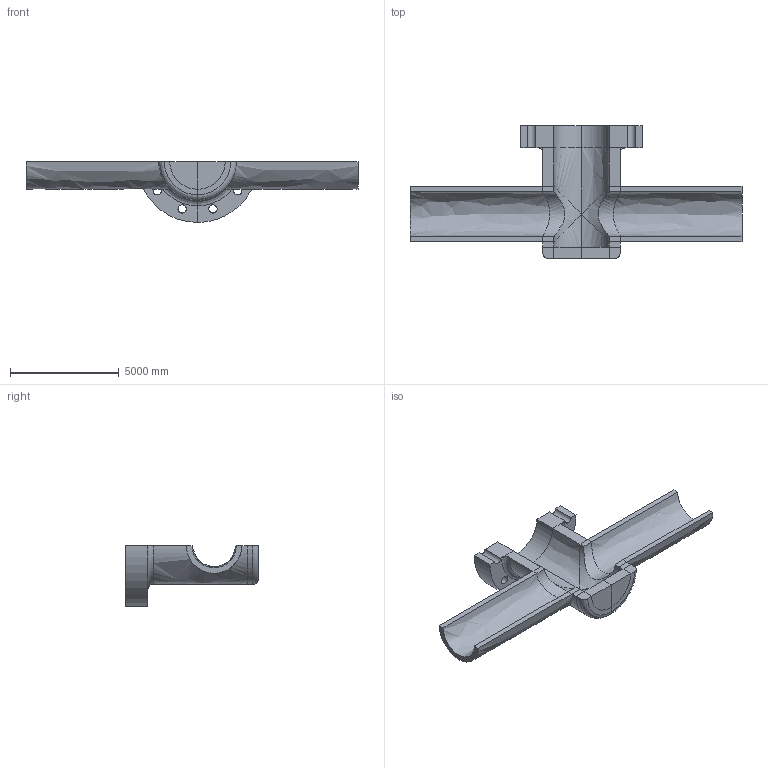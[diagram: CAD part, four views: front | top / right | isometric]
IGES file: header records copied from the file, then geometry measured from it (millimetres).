
Start section: the Structure Analysis of Valve /COM,ANSYS RELEASE  9.0    UP20041104       12:08:06    02/17/2006 /NOPR /PREP7 /TITLE,the Structure Analysis of Valve BFUNIF,TEMP,_TINY KUSE,0 TIME,0.00000000 TREF,0.00000000 ALPHAD,0.00000000 BETAD,0.00000000 DMPRAT,0.00000000 CRPLIM,0.100000000,0 CRPLIM,0.00000000,1 NCNV,1,0.00000000,0,0.00000000,0.00000000 NEQIT,0 ERESX,DEFA ACEL,0.00000000,0.00000000,0.00000000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
Global section: file name: EX4-1.iges; native system: ANSYS; preprocessor:   9.0      UP20041104; date: 000217.120805
Bounding box: 15240 x 6096 x 2794 mm (x, y, z)
Volume: 32217507176.4 mm3; surface area: 228710926 mm2
Topology: 14 solids, 14 shells, 106 faces, 251 edges, 177 vertices
Faces by surface type: bspline 106
